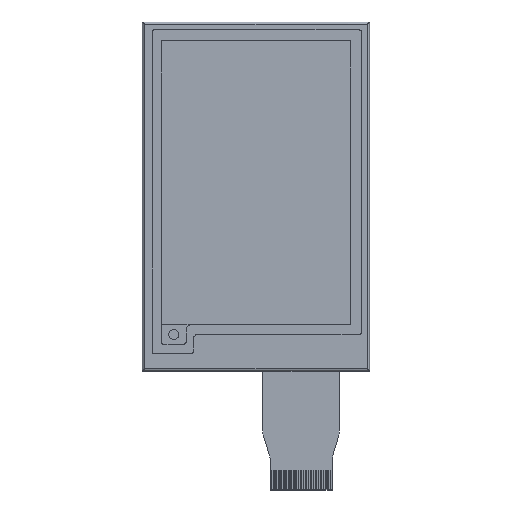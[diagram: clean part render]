
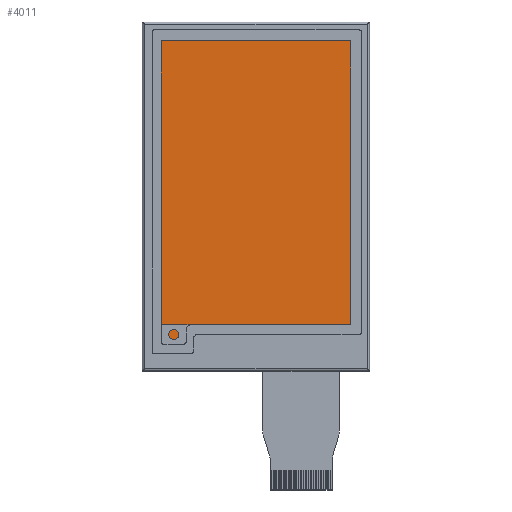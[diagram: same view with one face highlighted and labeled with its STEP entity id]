
A CAD part, top view. The second image highlights one B-rep face of the part: STEP entity #4011.
In plain terms, the highlighted planar face has unit normal (0, 0, 1).
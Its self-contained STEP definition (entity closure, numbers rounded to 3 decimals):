
#194 = VECTOR ( 'NONE', #6979, 1000. ) ;
#239 = DIRECTION ( 'NONE',  ( -1., 0., 0. ) ) ;
#421 = DIRECTION ( 'NONE',  ( 0., 1., 0. ) ) ;
#469 = ORIENTED_EDGE ( 'NONE', *, *, #3334, .F. ) ;
#579 = EDGE_CURVE ( 'NONE', #1288, #5092, #867, .T. ) ;
#614 = ORIENTED_EDGE ( 'NONE', *, *, #6247, .F. ) ;
#729 = VERTEX_POINT ( 'NONE', #1141 ) ;
#804 = LINE ( 'NONE', #2853, #3196 ) ;
#867 = CIRCLE ( 'NONE', #1810, 0.5 ) ;
#998 = AXIS2_PLACEMENT_3D ( 'NONE', #1970, #7234, #6118 ) ;
#1126 = ORIENTED_EDGE ( 'NONE', *, *, #7225, .F. ) ;
#1141 = CARTESIAN_POINT ( 'NONE',  ( 19.096, 31.394, 1. ) ) ;
#1276 = DIRECTION ( 'NONE',  ( 0., 0., 1. ) ) ;
#1288 = VERTEX_POINT ( 'NONE', #4049 ) ;
#1307 = CIRCLE ( 'NONE', #6925, 0.5 ) ;
#1380 = VERTEX_POINT ( 'NONE', #3030 ) ;
#1412 = CARTESIAN_POINT ( 'NONE',  ( 19.096, 0., 1. ) ) ;
#1442 = CARTESIAN_POINT ( 'NONE',  ( 0., -29.804, 1. ) ) ;
#1473 = EDGE_CURVE ( 'NONE', #5774, #729, #4544, .T. ) ;
#1543 = CARTESIAN_POINT ( 'NONE',  ( -18.596, -29.804, 1. ) ) ;
#1557 = DIRECTION ( 'NONE',  ( 1., 0., 0. ) ) ;
#1728 = VECTOR ( 'NONE', #421, 1000. ) ;
#1745 = CARTESIAN_POINT ( 'NONE',  ( 0., -25.894, 1. ) ) ;
#1804 = EDGE_CURVE ( 'NONE', #729, #6844, #804, .T. ) ;
#1810 = AXIS2_PLACEMENT_3D ( 'NONE', #4411, #5616, #7343 ) ;
#1837 = CIRCLE ( 'NONE', #4091, 1. ) ;
#1970 = CARTESIAN_POINT ( 'NONE',  ( 0., 0., 1. ) ) ;
#2032 = EDGE_LOOP ( 'NONE', ( #4046, #469, #3320, #3840, #614, #2934, #3308, #4719, #1126 ) ) ;
#2158 = CARTESIAN_POINT ( 'NONE',  ( -14.096, 0., 1. ) ) ;
#2239 = CARTESIAN_POINT ( 'NONE',  ( -14.096, -29.304, 1. ) ) ;
#2543 = PLANE ( 'NONE',  #998 ) ;
#2816 = LINE ( 'NONE', #7393, #6532 ) ;
#2853 = CARTESIAN_POINT ( 'NONE',  ( 0., 31.394, 1. ) ) ;
#2934 = ORIENTED_EDGE ( 'NONE', *, *, #3500, .F. ) ;
#2946 = VERTEX_POINT ( 'NONE', #7065 ) ;
#3030 = CARTESIAN_POINT ( 'NONE',  ( -14.096, -26.894, 1. ) ) ;
#3178 = EDGE_CURVE ( 'NONE', #5965, #6685, #1307, .T. ) ;
#3196 = VECTOR ( 'NONE', #5820, 1000. ) ;
#3308 = ORIENTED_EDGE ( 'NONE', *, *, #1473, .T. ) ;
#3320 = ORIENTED_EDGE ( 'NONE', *, *, #579, .T. ) ;
#3334 = EDGE_CURVE ( 'NONE', #1288, #6685, #5301, .T. ) ;
#3451 = FACE_OUTER_BOUND ( 'NONE', #2032, .T. ) ;
#3500 = EDGE_CURVE ( 'NONE', #5774, #2946, #4265, .T. ) ;
#3509 = VECTOR ( 'NONE', #239, 1000. ) ;
#3767 = DIRECTION ( 'NONE',  ( 0., 1., 0. ) ) ;
#3840 = ORIENTED_EDGE ( 'NONE', *, *, #5110, .T. ) ;
#4004 = CARTESIAN_POINT ( 'NONE',  ( -19.096, 31.394, 1. ) ) ;
#4011 = ADVANCED_FACE ( 'NONE', ( #3451 ), #2543, .T. ) ;
#4046 = ORIENTED_EDGE ( 'NONE', *, *, #3178, .T. ) ;
#4049 = CARTESIAN_POINT ( 'NONE',  ( -14.596, -29.804, 1. ) ) ;
#4091 = AXIS2_PLACEMENT_3D ( 'NONE', #7479, #4553, #1557 ) ;
#4265 = LINE ( 'NONE', #1745, #194 ) ;
#4411 = CARTESIAN_POINT ( 'NONE',  ( -14.596, -29.304, 1. ) ) ;
#4455 = CARTESIAN_POINT ( 'NONE',  ( -19.096, -29.304, 1. ) ) ;
#4544 = LINE ( 'NONE', #1412, #7361 ) ;
#4553 = DIRECTION ( 'NONE',  ( 0., 0., 1. ) ) ;
#4719 = ORIENTED_EDGE ( 'NONE', *, *, #1804, .T. ) ;
#5092 = VERTEX_POINT ( 'NONE', #2239 ) ;
#5110 = EDGE_CURVE ( 'NONE', #5092, #1380, #7425, .T. ) ;
#5301 = LINE ( 'NONE', #1442, #3509 ) ;
#5616 = DIRECTION ( 'NONE',  ( 0., 0., 1. ) ) ;
#5774 = VERTEX_POINT ( 'NONE', #6311 ) ;
#5820 = DIRECTION ( 'NONE',  ( -1., 0., 0. ) ) ;
#5965 = VERTEX_POINT ( 'NONE', #4455 ) ;
#6004 = CARTESIAN_POINT ( 'NONE',  ( -18.596, -29.304, 1. ) ) ;
#6118 = DIRECTION ( 'NONE',  ( 1., 0., 0. ) ) ;
#6247 = EDGE_CURVE ( 'NONE', #2946, #1380, #1837, .T. ) ;
#6311 = CARTESIAN_POINT ( 'NONE',  ( 19.096, -25.894, 1. ) ) ;
#6532 = VECTOR ( 'NONE', #7289, 1000. ) ;
#6685 = VERTEX_POINT ( 'NONE', #1543 ) ;
#6844 = VERTEX_POINT ( 'NONE', #4004 ) ;
#6925 = AXIS2_PLACEMENT_3D ( 'NONE', #6004, #1276, #7215 ) ;
#6979 = DIRECTION ( 'NONE',  ( -1., 0., 0. ) ) ;
#7065 = CARTESIAN_POINT ( 'NONE',  ( -13.096, -25.894, 1. ) ) ;
#7215 = DIRECTION ( 'NONE',  ( 1., 0., 0. ) ) ;
#7225 = EDGE_CURVE ( 'NONE', #5965, #6844, #2816, .T. ) ;
#7234 = DIRECTION ( 'NONE',  ( 0., 0., 1. ) ) ;
#7289 = DIRECTION ( 'NONE',  ( 0., 1., 0. ) ) ;
#7343 = DIRECTION ( 'NONE',  ( 1., 0., 0. ) ) ;
#7361 = VECTOR ( 'NONE', #3767, 1000. ) ;
#7393 = CARTESIAN_POINT ( 'NONE',  ( -19.096, 0., 1. ) ) ;
#7425 = LINE ( 'NONE', #2158, #1728 ) ;
#7479 = CARTESIAN_POINT ( 'NONE',  ( -13.096, -26.894, 1. ) ) ;
